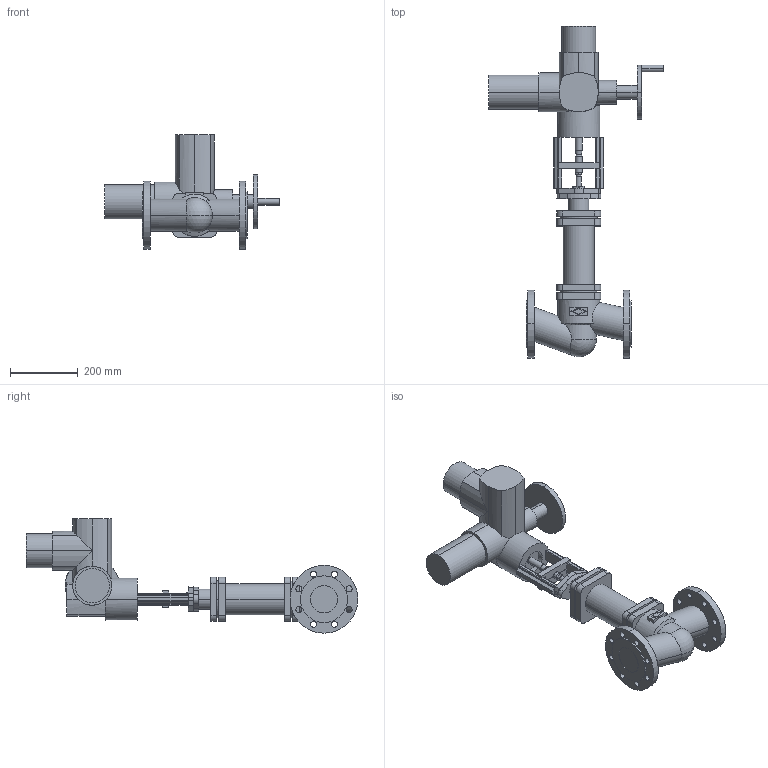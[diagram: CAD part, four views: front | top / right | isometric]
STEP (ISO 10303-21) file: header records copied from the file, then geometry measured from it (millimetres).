
FILE_DESCRIPTION(('OneSpaceDesigner STEP Export'),'2;1');
FILE_NAME('c000003134.stp','2007-01-19T11:26:21',(''),(''),'OneSpace Designer STEP processor for AP214 (Solid Model)','OneSpace Designer 14.00B 27-May-2006 (C) CoCreate Software GmbH','');
FILE_SCHEMA(('AUTOMOTIVE_DESIGN { 1 0 10303 214 1 1 1 1 }'));
Length unit declared in the file: millimetre
Products named in the file (2): 1; 2
Bounding box: 514 x 977.7 x 337 mm (x, y, z)
Volume: 15316037.8 mm3; surface area: 876706.3 mm2
Topology: 2 solids, 2 shells, 328 faces, 844 edges, 539 vertices
Faces by surface type: cylinder 166, plane 154, cone 6, sphere 2
Entity records: 10614 total; most frequent: CARTESIAN_POINT 2159, ORIENTED_EDGE 1684, DIRECTION 1449, SURFACE_CURVE 842, EDGE_CURVE 842, VERTEX_POINT 539, AXIS2_PLACEMENT_3D 494, VECTOR 461
